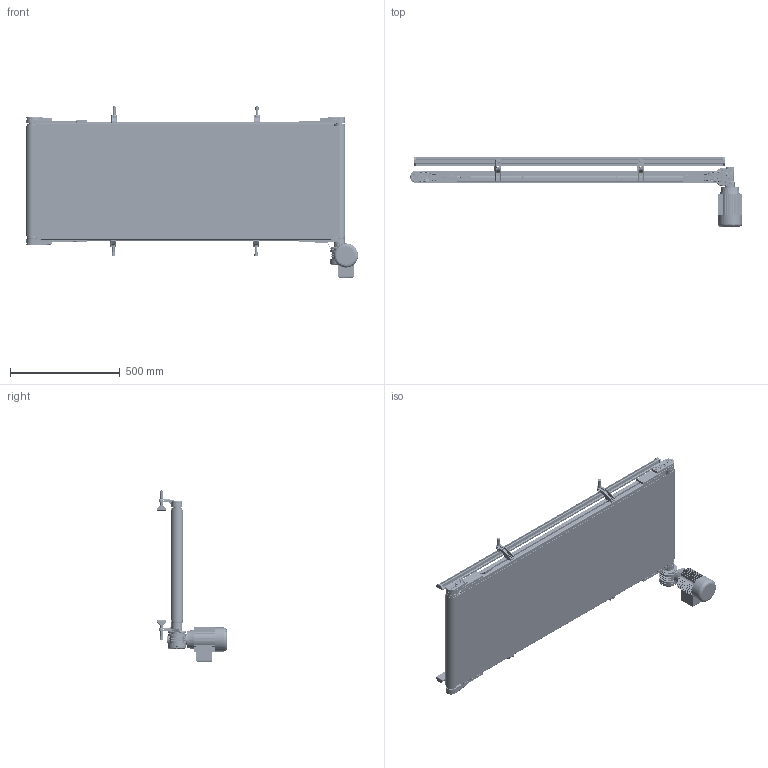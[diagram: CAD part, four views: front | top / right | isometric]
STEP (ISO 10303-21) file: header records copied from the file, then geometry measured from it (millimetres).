
FILE_DESCRIPTION (( 'STEP AP203' ), '1' );
FILE_NAME ('NASTRO_RETTILINEO_TAPPETO.step', '2026-05-05T07:21:56', ( 'Utente Windows' ), ( '' ), 'SwSTEP 2.0', 'SolidWorks 2024', '' );
FILE_SCHEMA (( 'CONFIG_CONTROL_DESIGN' ));
Length unit declared in the file: millimetre
Products named in the file (53): 084.711.005; LAMIERA_STANDARD; VITI TSEI UNI 5933_M4x12 UNI 5933; TAPPETO_STANDARD; 084.711.010; BLOCCO_TRAINO_50_STANDARD_30_SX_Motore a Sx; CHIAVETTE_A 5x5x20 UNI 6604-69; RULLO_50_Default<A macchina>; 084.803.018; 084.802.008; 084.808.012; 084.802.071; 084.301.000 VITI ALUSIC_084.301.009; VITI TSEI UNI 5933_M5x12 UNI 5933; 084.811.004; VITE_RONDELLA_M8X20; DADI ESAGONALI NORMALI UNI 5588_M6 UNI 5588; 084.802.062; 14UNI7435; 084.711.006_PER CAVA 8 PERNO ALTO 1; 084.811.001; 084.302.000 DADI ALUSIC 13x13-1_084.302.004; VITI TSEI UNI 5933_M4x10 UNI 5933; NASTRO_RETTILINEO_TAPPETO; VITI TCEI UNI 5931_M4x25 UNI 5931; 084.712.002; CHIAVETTE_A 5x5x40 UNI 6604-69; 084.802.066_Default<A macchina>; 084.302.000 DADI ALUSIC 13x13-1_084.302.007; 084.711.007; BLOCCO_PERNO_50_30; BLOCCO_BRACCIO_CH03P_VF30P; VITI TSEI UNI 5933 INOX_0412UNI5933A2; 084.810.001; 084.302.000 DADI ALUSIC 13x13_084.302.004; 084.303.001; 084.802.017_084.802.017; 084.711.006_L1; BLOCCO_TRAINO_50_STANDARD; 084.807.003_084.807.003<A macchina>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
Assembly tree (103 placements, depth 4):
  NASTRO_RETTILINEO_TAPPETO
    TAPPETO_STANDARD
    TELAIO_50_STANDARD_Default<A macchina>
    LAMIERA_STANDARD
    RULLO_50_Default<A macchina>  x2
    BLOCCO_PERNO_50_RINVIO  x3
      084.811.004
      084.810.001
    BLOCCO_TRAINO_50_STANDARD
      084.807.002_084.807.002
      084.802.017_084.802.017
      084.301.000 VITI ALUSIC_084.301.003  x2
      084.302.000 DADI ALUSIC 13x13-1_084.302.004  x2
      VITI TSEI UNI 5933_M4x12 UNI 5933  x4
      084.802.071
      VITI TSEI UNI 5933 INOX_0412UNI5933A2  x2
    BLOCCO_PERNO_50_30
      084.810.001
      084.811.001
      RONDELLE FASCIA LARGA UNI 6593_5.4x20 UNI 6593
      084.301.000 VITI ALUSIC_084.301.009
      CHIAVETTE_A 5x5x40 UNI 6604-69
      CHIAVETTE_A 5x5x20 UNI 6604-69
      14UNI7435
    BLOCCO_TRAINO_50_STANDARD_30_SX_Motore a Sx
      084.807.003_084.807.003<A macchina>
      084.802.017_084.802.017
      084.301.000 VITI ALUSIC_084.301.003  x2
      084.302.000 DADI ALUSIC 13x13-1_084.302.004  x2
      BLOCCO_BRACCIO_CH03P_VF30P
        084.808.012
        084.802.062
        084.802.061
        VITI TE UNI 5739_M6x16 UNI 5739  x4
        084.803.018
        VITI TCEI UNI 5931_M6x12 UNI 5931  x4
      084.802.066_Default<A macchina>
      VITI TCEI UNI 5931_M4x25 UNI 5931  x2
    BLOCCO_RINVIO_50_STANDARD  x2
      084.807.002_084.807.002
      084.802.017_084.802.017
      084.802.008
      084.301.000 VITI ALUSIC_084.301.003
      084.302.000 DADI ALUSIC 13x13_084.302.004
      VITI TSEI UNI 5933_M4x10 UNI 5933
      084.802.071
    SPONDA_Default<A macchina>  x2
    084.711.006_PER CAVA 8 PERNO ALTO 1  x4
      084.711.006_L1
      084.711.006_L2
      084.711.007
      084.711.005
      084.711.010
      DADI ESAGONALI NORMALI UNI 5588_M6 UNI 5588
    084.712.002  x4
    VITE_RONDELLA_M8X20  x5
      084.303.001
      084.301.000 VITI ALUSIC_084.301.003
    VITE_DADO_M5X12  x8
      084.302.000 DADI ALUSIC 13x13-1_084.302.007
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Bounding box: 1512 x 317 x 779.33 mm (x, y, z)
Volume: 11135177.3 mm3; surface area: 8560692 mm2
Topology: 158 solids, 164 shells, 7949 faces, 20303 edges, 12829 vertices
Faces by surface type: plane 3749, cylinder 2369, cone 663, bspline 613, torus 473, sphere 82
Entity records: 157523 total; most frequent: CARTESIAN_POINT 45216, ORIENTED_EDGE 22842, DIRECTION 21048, EDGE_CURVE 11421, VERTEX_POINT 7317, AXIS2_PLACEMENT_3D 7233, VECTOR 6582, LINE 6582
